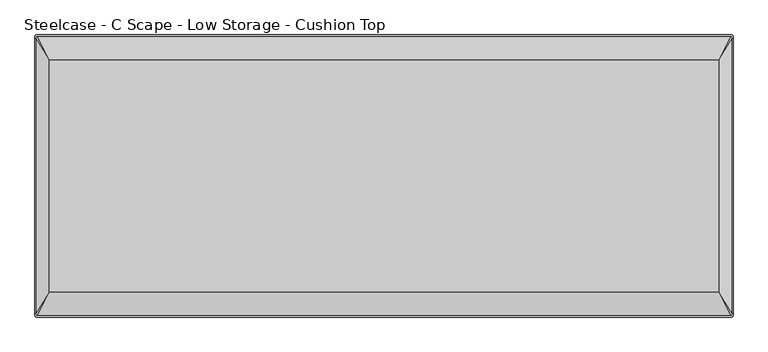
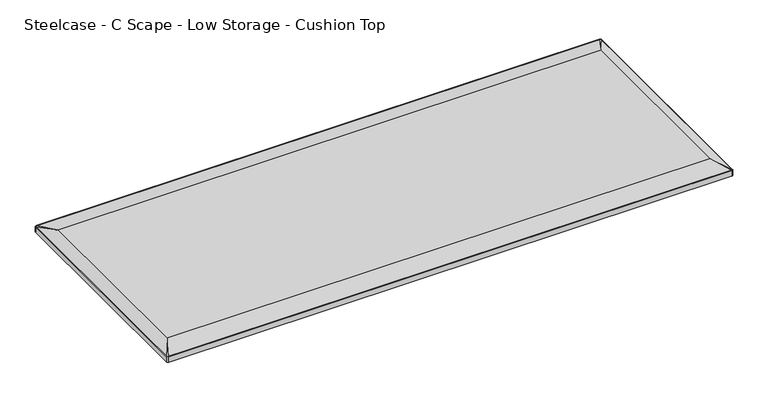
"""IFC4 building model written with IfcOpenShell, lengths in millimetres: furniture geometry, Steelcase - C Scape - Low Storage - Cushion Top : 17D x 42W."""

from ifc_helpers import new_model, si_unit, point, frame, frame_2d, origin, place, context, project, spatial, polyline, circle_curve, trimmed, segment, composite_curve, outline, extrude, source, transform, mapped, element, save
from ifc_brep_helpers import plane_surface, spline_surface, advanced_brep


def steelcase_c_scape_low_storage_cushion_top_e3d9a87d(model_context):
    return source(origin(), model_context, "Body", "SolidModel", [
        extrude(outline(composite_curve([segment(trimmed(circle_curve(frame_2d((1064.26, 213.36)), 2.54), [point((1064.26, 215.9))], [point((1066.8, 213.36))], False, "CARTESIAN"), True, "CONTINUOUS"), segment(polyline([(1066.8, 213.36), (1066.8, -213.36)]), True, "CONTINUOUS"), segment(trimmed(circle_curve(frame_2d((1064.26, -213.36)), 2.54), [point((1066.8, -213.36))], [point((1064.26, -215.9))], False, "CARTESIAN"), True, "CONTINUOUS"), segment(polyline([(1064.26, -215.9), (2.54, -215.9)]), True, "CONTINUOUS"), segment(trimmed(circle_curve(frame_2d((2.54, -213.36)), 2.54), [point((2.54, -215.9))], [point((0.0, -213.36))], False, "CARTESIAN"), True, "CONTINUOUS"), segment(polyline([(0.0, -213.36), (0.0, 213.36)]), True, "CONTINUOUS"), segment(trimmed(circle_curve(frame_2d((2.54, 213.36)), 2.54), [point((0.0, 213.36))], [point((2.54, 215.9))], False, "CARTESIAN"), True, "CONTINUOUS"), segment(polyline([(2.54, 215.9), (1064.26, 215.9)]), True, "CONTINUOUS")], self_intersect=False)), frame((0.0, 0.0, 599.44), z_axis=(0.0, 0.0, 1.0), x_axis=(1.0, 0.0, 0.0)), (0.0, 0.0, 1.0), 10.9220174),
        advanced_brep(
        [(1064.26, 215.9, 610.3620174), (1066.8, 213.36, 610.3620174), (1066.8, -213.36, 610.3620174), (1064.26, -215.9, 610.3620174), (2.54, -215.9, 610.3620174), (0.0, -213.36, 610.3620174), (0.0, 213.36, 610.3620174), (2.54, 215.9, 610.3620174), (1044.702, 177.5206021, 618.4900097), (22.0725989, 177.5206021, 618.4900097), (22.0725989, -177.5206021, 618.4900097), (1044.702, -177.5206021, 618.4900097)],
        [
            (0, 1, circle_curve(frame((1064.26, 213.36, 610.3620174), z_axis=(0.0, 0.0, -1.0), x_axis=(1.0, 0.0, 0.0)), 2.54)),
            (1, 2),
            (2, 3, circle_curve(frame((1064.26, -213.36, 610.3620174), z_axis=(0.0, 0.0, -1.0), x_axis=(1.0, 0.0, 0.0)), 2.54)),
            (3, 4),
            (4, 5, circle_curve(frame((2.54, -213.36, 610.3620174), z_axis=(0.0, 0.0, -1.0), x_axis=(1.0, 0.0, 0.0)), 2.54)),
            (5, 6),
            (6, 7, circle_curve(frame((2.54, 213.36, 610.3620174), z_axis=(0.0, 0.0, -1.0), x_axis=(1.0, 0.0, 0.0)), 2.54)),
            (7, 0),
            (8, 9),
            (9, 10),
            (10, 11),
            (11, 8),
            (8, 0),
            (7, 9),
            (9, 6),
            (5, 10),
            (10, 4),
            (3, 11),
            (11, 2),
            (1, 8),
        ],
        [
            plane_surface(frame((533.4, 0.0, 610.3620174), z_axis=(0.0, 0.0, -1.0), x_axis=(-1.0, 0.0, 0.0))),
            plane_surface(frame((533.3872995, 0.0, 618.4900097), z_axis=(0.0, 0.0, 1.0), x_axis=(-1.0, 0.0, 0.0))),
            plane_surface(frame((533.3872995, 177.5206021, 618.4900097), z_axis=(0.0, 0.20718484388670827, 0.9783018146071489), x_axis=(1.0, 0.0, 0.0))),
            plane_surface(frame((22.0725989, 0.0, 618.4900097), z_axis=(-0.3455549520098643, 0.0, 0.9383985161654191), x_axis=(0.0, 1.0, 0.0))),
            plane_surface(frame((533.3872995, -177.5206021, 618.4900097), z_axis=(0.0, -0.20718484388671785, 0.9783018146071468), x_axis=(-1.0, 0.0, 0.0))),
            plane_surface(frame((1044.702, 0.0, 618.4900097), z_axis=(0.34520510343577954, 0.0, 0.9385272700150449), x_axis=(0.0, -1.0, 0.0))),
            spline_surface(2, 1, [[(1044.702, 177.5206021, 618.4900097), (1064.26, 215.9, 610.3620174)], [(1044.702, 177.5206021, 618.4900097), (1066.8, 215.90000000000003, 610.3620174)], [(1044.702, 177.5206021, 618.4900097), (1066.8, 213.36, 610.3620174)]], [3, 3], [2, 2], [0.0, 1.0], [0.0, 1.0], weights=[[1.0, 1.0], [0.7071067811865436, 0.7071067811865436], [1.0, 1.0]]),
            spline_surface(2, 1, [[(1044.702, -177.5206021, 618.4900097), (1066.8, -213.36, 610.3620174)], [(1044.702, -177.5206021, 618.4900097), (1066.8, -215.89999999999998, 610.3620174)], [(1044.702, -177.5206021, 618.4900097), (1064.26, -215.9, 610.3620174)]], [3, 3], [2, 2], [0.0, 1.0], [0.0, 1.0], weights=[[1.0, 1.0], [0.7071067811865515, 0.7071067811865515], [1.0, 1.0]]),
            spline_surface(2, 1, [[(22.0725989, -177.5206021, 618.4900097), (2.54, -215.9, 610.3620174)], [(22.0725989, -177.5206021, 618.4900097), (7.993605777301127e-15, -215.9, 610.3620174)], [(22.0725989, -177.5206021, 618.4900097), (0.0, -213.36, 610.3620174)]], [3, 3], [2, 2], [0.0, 1.0], [0.0, 1.0], weights=[[1.0, 1.0], [0.7071067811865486, 0.7071067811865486], [1.0, 1.0]]),
            spline_surface(2, 1, [[(22.0725989, 177.5206021, 618.4900097), (0.0, 213.36, 610.3620174)], [(22.0725989, 177.5206021, 618.4900097), (-8.43769498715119e-15, 215.9, 610.3620174)], [(22.0725989, 177.5206021, 618.4900097), (2.54, 215.9, 610.3620174)]], [3, 3], [2, 2], [0.0, 1.0], [0.0, 1.0], weights=[[1.0, 1.0], [0.7071067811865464, 0.7071067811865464], [1.0, 1.0]]),
        ],
        [
            (0, [[1, 2, 3, 4, 5, 6, 7, 8]]),
            (1, [[9, 10, 11, 12]]),
            (2, [[-9, 13, -8, 14]]),
            (3, [[-10, 15, -6, 16]]),
            (4, [[-11, 17, -4, 18]]),
            (5, [[-12, 19, -2, 20]]),
            (6, [[-1, -13, -20]]),
            (7, [[-3, -19, -18]]),
            (8, [[-5, -17, -16]]),
            (9, [[-7, -15, -14]]),
        ],
    ),
    ])


if __name__ == "__main__":
    model = new_model("IFC4")
    model_context = context("Model", 3, world=origin())
    ifc_project = project(units=[si_unit("LENGTHUNIT", "METRE", prefix="MILLI")], contexts=[model_context])
    site = spatial("IfcSite", under=ifc_project)
    building = spatial("IfcBuilding", under=site)
    placement = place(None, origin())
    steelcase_c_scape_low_storage_cushion_top_shape = steelcase_c_scape_low_storage_cushion_top_e3d9a87d(model_context)
    element("IfcFurniture", 1, ObjectType="Steelcase - C Scape - Low Storage - Cushion Top : 17D x 42W", at=placement, inside=building, context=model_context, shape_type="MappedRepresentation", body=[
        mapped(steelcase_c_scape_low_storage_cushion_top_shape, transform((0.0, 0.0, 0.0), x_axis=(1.0, 0.0, 0.0), y_axis=(0.0, 1.0, 0.0), z_axis=(0.0, 0.0, 1.0))),
    ])
    save(model, "model.ifc")
